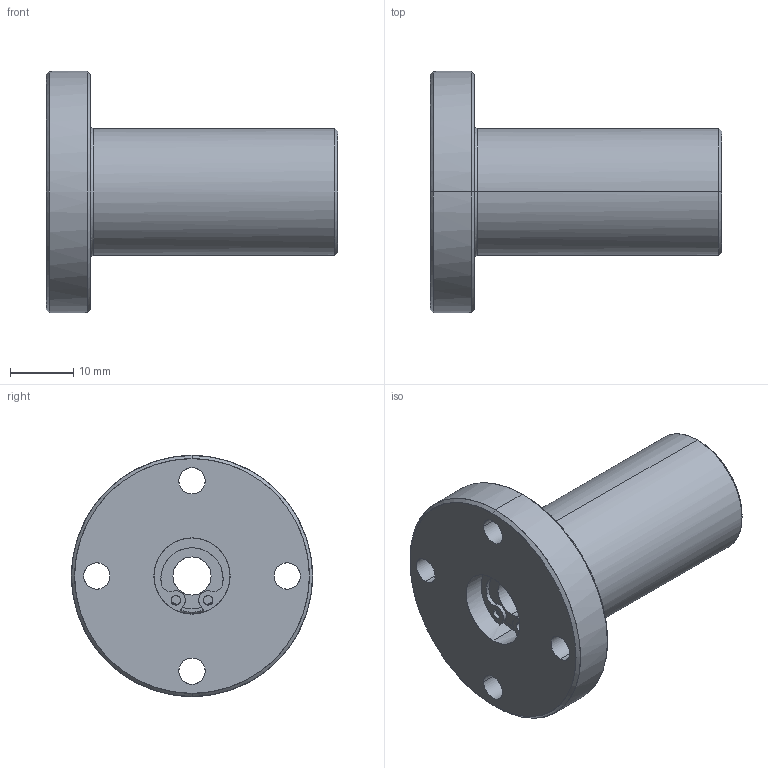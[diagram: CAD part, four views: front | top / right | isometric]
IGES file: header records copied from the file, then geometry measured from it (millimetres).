
Global section: file name: No Iges File Name specified; native system: AutoDesk Inventor R10; preprocessor: AutoDesk Inventor Iges Exporter R10; author: No Author specified; organization: No Organization specified; date: 20101214.134338; units: millimetre
Bounding box: 46 x 38 x 38 mm (x, y, z)
Surface area: 7477.9 mm2 (no closed solid volume)
Topology: 0 solids, 0 shells, 111 faces, 848 edges, 848 vertices
Faces by surface type: bspline 111
